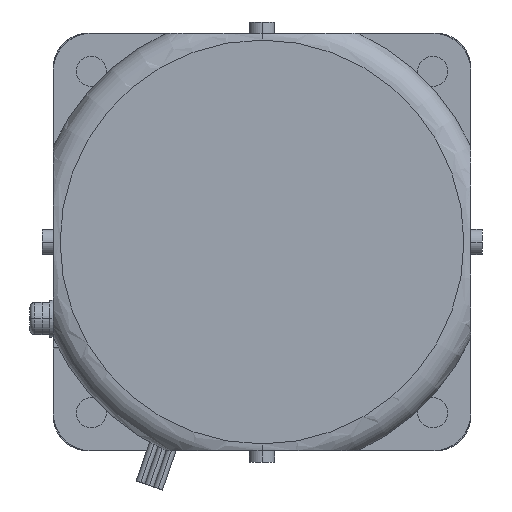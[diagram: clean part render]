
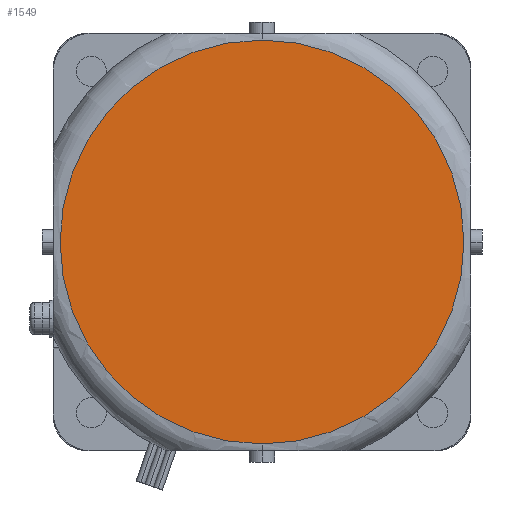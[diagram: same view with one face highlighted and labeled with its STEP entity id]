
A CAD part, left-side view. The second image highlights one B-rep face of the part: STEP entity #1549.
In plain terms, the highlighted planar face has unit normal (-1, 0, 0).
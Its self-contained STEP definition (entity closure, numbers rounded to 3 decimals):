
#1529=CARTESIAN_POINT('POINT430179',(-185.,0.,
   25.5));
#1530=VERTEX_POINT('VERTEX430179',#1529);
#1531=CARTESIAN_POINT('POINT430180',(-185.,0.,
   -61.5));
#1532=VERTEX_POINT('VERTEX430180',#1531);
#1533=CARTESIAN_POINT('POS721060',(-185.,0.,-18.));
#1534=DIRECTION('DIR1085168',(-1.,0.,0.));
#1535=DIRECTION('DIR1085169',(0.,0.,-1.));
#1536=AXIS2_PLACEMENT_3D('AXIS364109',#1533,#1534,#1535);
#1537=CIRCLE('ELLIPSE169811',#1536,43.5);
#1538=EDGE_CURVE('EDGE656400',#1530,#1532,#1537,.T.);
#1539=ORIENTED_EDGE('COEDGE1312783',*,*,#1538,.T.);
#1540=EDGE_CURVE('EDGE656401',#1532,#1530,#1537,.T.);
#1541=ORIENTED_EDGE('COEDGE1312784',*,*,#1540,.T.);
#1542=EDGE_LOOP('NONE',(#1539,#1541));
#1543=FACE_BOUND('LOOP1',#1542,.T.);
#1544=CARTESIAN_POINT('POS721061',(-185.,0.,
   4.25));
#1545=DIRECTION('DIR1085170',(-1.,0.,0.));
#1546=DIRECTION('DIR1085171',(0.,1.,0.));
#1547=AXIS2_PLACEMENT_3D('AXIS364110',#1544,#1545,#1546);
#1548=PLANE('PLANE117346',#1547);
#1549=ADVANCED_FACE('FACE268294',(#1543),#1548,.T.);
